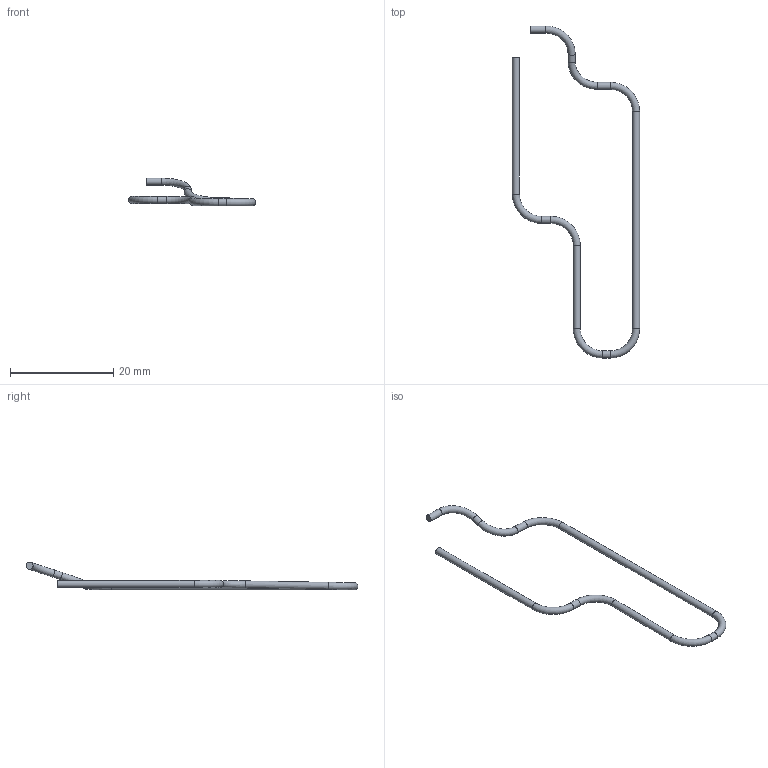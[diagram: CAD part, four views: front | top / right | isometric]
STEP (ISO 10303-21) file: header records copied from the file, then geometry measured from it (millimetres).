
FILE_DESCRIPTION(('Open CASCADE Model'),'2;1');
FILE_NAME('R36_COAX_150mm_OD1p37_R5_PROPOSED','2026-09-15T13:20:04',( 'Author'),('Open CASCADE'),'Open CASCADE STEP processor 7.9', 'build123d','Unknown');
FILE_SCHEMA(('AUTOMOTIVE_DESIGN { 1 0 10303 214 1 1 1 1 }'));
Length unit declared in the file: millimetre
Products named in the file (1): R36_COAX_150mm_OD1p37_R5_PROPOSED
Bounding box: 24.67 x 64.37 x 5.37 mm (x, y, z)
Volume: 221.1 mm3; surface area: 648.5 mm2
Topology: 1 solids, 1 shells, 17 faces, 31 edges, 16 vertices
Faces by surface type: cylinder 8, torus 7, plane 2
Full cylindrical faces by diameter (mm): 1.37 x8
Entity records: 800 total; most frequent: CARTESIAN_POINT 156, DIRECTION 123, ORIENTED_EDGE 62, PCURVE 62, DEFINITIONAL_REPRESENTATION 62, AXIS2_PLACEMENT_3D 41, LINE 39, VECTOR 39
